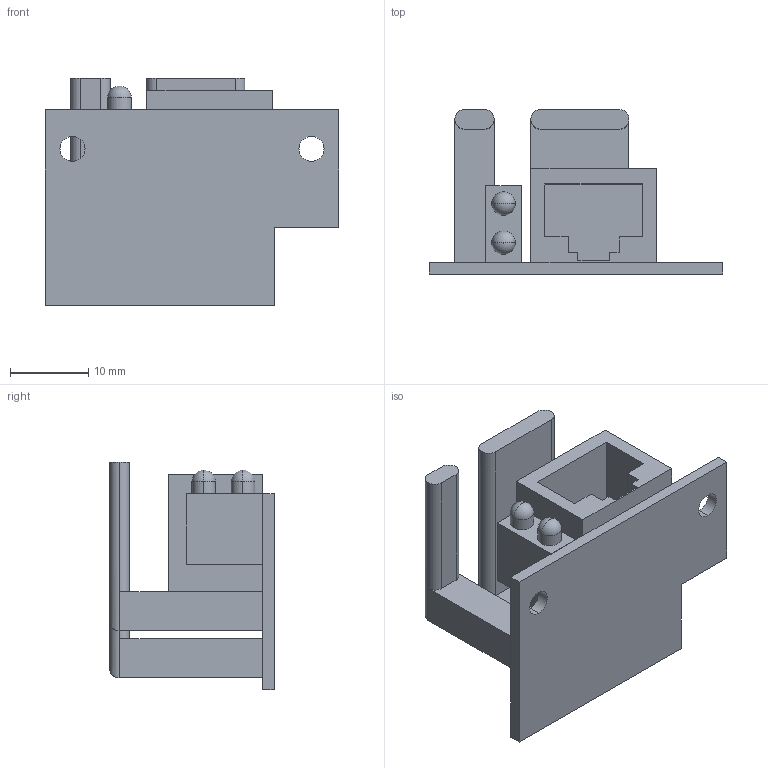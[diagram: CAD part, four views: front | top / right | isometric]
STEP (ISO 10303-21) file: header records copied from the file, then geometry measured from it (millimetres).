
FILE_DESCRIPTION (( 'STEP AP214' ), '1' );
FILE_NAME ('RJ45_PCB.STEP', '2015-02-27T03:07:10', ( '' ), ( '' ), '', '', '' );
FILE_SCHEMA (( '' ));
Length unit declared in the file: millimetre
Products named in the file (1): RJ45_PCB
Bounding box: 37.5 x 21 x 29 mm (x, y, z)
Volume: 6600.6 mm3; surface area: 5512.3 mm2
Topology: 1 solids, 1 shells, 70 faces, 176 edges, 114 vertices
Faces by surface type: plane 48, cylinder 18, torus 4
Entity records: 2811 total; most frequent: CARTESIAN_POINT 373, ORIENTED_EDGE 352, DIRECTION 350, EDGE_CURVE 176, LINE 136, VECTOR 136, VERTEX_POINT 114, AXIS2_PLACEMENT_3D 107
